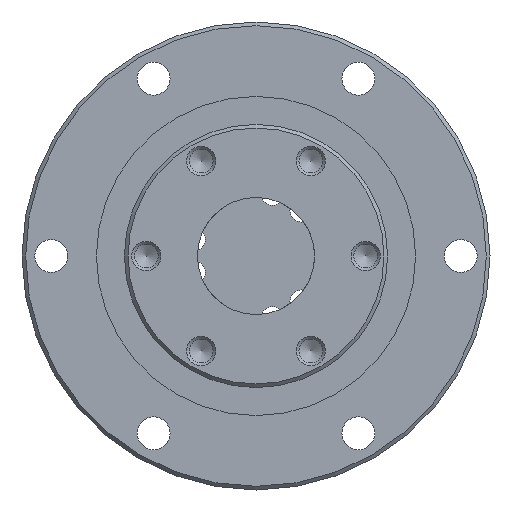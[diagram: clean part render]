
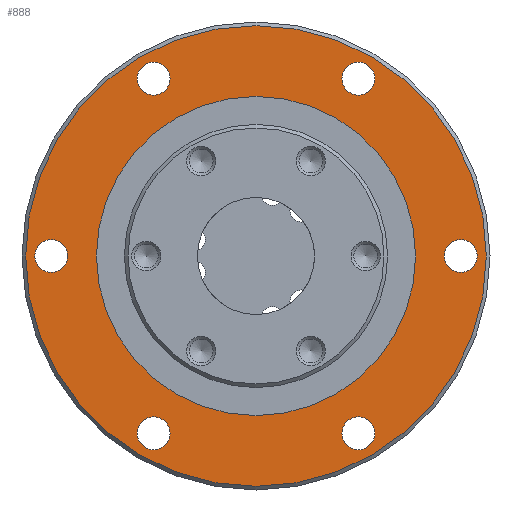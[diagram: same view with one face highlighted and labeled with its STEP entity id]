
A CAD part, left-side view. The second image highlights one B-rep face of the part: STEP entity #888.
In plain terms, the highlighted planar face has unit normal (-1, 0, 0).
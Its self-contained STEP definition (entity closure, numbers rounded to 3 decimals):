
#66=PLANE('',#1021);
#188=ORIENTED_EDGE('',*,*,#340,.F.);
#189=ORIENTED_EDGE('',*,*,#341,.F.);
#190=ORIENTED_EDGE('',*,*,#342,.F.);
#191=ORIENTED_EDGE('',*,*,#343,.F.);
#192=ORIENTED_EDGE('',*,*,#344,.F.);
#193=ORIENTED_EDGE('',*,*,#345,.F.);
#194=ORIENTED_EDGE('',*,*,#346,.F.);
#195=ORIENTED_EDGE('',*,*,#339,.T.);
#339=EDGE_CURVE('',#423,#423,#512,.T.);
#340=EDGE_CURVE('',#424,#424,#513,.T.);
#341=EDGE_CURVE('',#425,#425,#514,.F.);
#342=EDGE_CURVE('',#426,#426,#515,.F.);
#343=EDGE_CURVE('',#427,#427,#516,.F.);
#344=EDGE_CURVE('',#428,#428,#517,.F.);
#345=EDGE_CURVE('',#429,#429,#518,.F.);
#346=EDGE_CURVE('',#430,#430,#519,.F.);
#423=VERTEX_POINT('',#1563);
#424=VERTEX_POINT('',#1566);
#425=VERTEX_POINT('',#1568);
#426=VERTEX_POINT('',#1570);
#427=VERTEX_POINT('',#1572);
#428=VERTEX_POINT('',#1574);
#429=VERTEX_POINT('',#1576);
#430=VERTEX_POINT('',#1578);
#512=CIRCLE('',#1020,21.818);
#513=CIRCLE('',#1022,31.5);
#514=CIRCLE('',#1023,2.25);
#515=CIRCLE('',#1024,2.25);
#516=CIRCLE('',#1025,2.25);
#517=CIRCLE('',#1026,2.25);
#518=CIRCLE('',#1027,2.25);
#519=CIRCLE('',#1028,2.25);
#591=EDGE_LOOP('',(#188));
#592=EDGE_LOOP('',(#189));
#593=EDGE_LOOP('',(#190));
#594=EDGE_LOOP('',(#191));
#595=EDGE_LOOP('',(#192));
#596=EDGE_LOOP('',(#193));
#597=EDGE_LOOP('',(#194));
#598=EDGE_LOOP('',(#195));
#725=FACE_BOUND('',#591,.T.);
#726=FACE_BOUND('',#592,.T.);
#727=FACE_BOUND('',#593,.T.);
#728=FACE_BOUND('',#594,.T.);
#729=FACE_BOUND('',#595,.T.);
#730=FACE_BOUND('',#596,.T.);
#731=FACE_BOUND('',#597,.T.);
#732=FACE_BOUND('',#598,.T.);
#888=ADVANCED_FACE('',(#725,#726,#727,#728,#729,#730,#731,#732),#66,.F.);
#1020=AXIS2_PLACEMENT_3D('',#1562,#1246,#1247);
#1021=AXIS2_PLACEMENT_3D('',#1564,#1248,#1249);
#1022=AXIS2_PLACEMENT_3D('',#1565,#1250,#1251);
#1023=AXIS2_PLACEMENT_3D('',#1567,#1252,#1253);
#1024=AXIS2_PLACEMENT_3D('',#1569,#1254,#1255);
#1025=AXIS2_PLACEMENT_3D('',#1571,#1256,#1257);
#1026=AXIS2_PLACEMENT_3D('',#1573,#1258,#1259);
#1027=AXIS2_PLACEMENT_3D('',#1575,#1260,#1261);
#1028=AXIS2_PLACEMENT_3D('',#1577,#1262,#1263);
#1246=DIRECTION('',(1.,0.,0.));
#1247=DIRECTION('',(0.,0.,-1.));
#1248=DIRECTION('',(1.,0.,0.));
#1249=DIRECTION('',(0.,0.,-1.));
#1250=DIRECTION('',(1.,0.,0.));
#1251=DIRECTION('',(0.,0.,-1.));
#1252=DIRECTION('',(1.,0.,0.));
#1253=DIRECTION('',(0.,0.,-1.));
#1254=DIRECTION('',(1.,0.,0.));
#1255=DIRECTION('',(0.,0.,-1.));
#1256=DIRECTION('',(1.,0.,0.));
#1257=DIRECTION('',(0.,0.,-1.));
#1258=DIRECTION('',(1.,0.,0.));
#1259=DIRECTION('',(0.,0.,-1.));
#1260=DIRECTION('',(1.,0.,0.));
#1261=DIRECTION('',(0.,0.,-1.));
#1262=DIRECTION('',(1.,0.,0.));
#1263=DIRECTION('',(0.,0.,-1.));
#1562=CARTESIAN_POINT('',(10.,0.,0.));
#1563=CARTESIAN_POINT('',(10.,0.,-21.818));
#1564=CARTESIAN_POINT('',(10.,21.818,0.));
#1565=CARTESIAN_POINT('',(10.,0.,0.));
#1566=CARTESIAN_POINT('',(10.,0.,-31.5));
#1567=CARTESIAN_POINT('',(10.,28.,0.));
#1568=CARTESIAN_POINT('',(10.,28.,-2.25));
#1569=CARTESIAN_POINT('',(10.,14.,-24.249));
#1570=CARTESIAN_POINT('',(10.,14.,-26.499));
#1571=CARTESIAN_POINT('',(10.,-14.,-24.249));
#1572=CARTESIAN_POINT('',(10.,-14.,-26.499));
#1573=CARTESIAN_POINT('',(10.,-28.,0.));
#1574=CARTESIAN_POINT('',(10.,-28.,-2.25));
#1575=CARTESIAN_POINT('',(10.,-14.,24.249));
#1576=CARTESIAN_POINT('',(10.,-14.,21.999));
#1577=CARTESIAN_POINT('',(10.,14.,24.249));
#1578=CARTESIAN_POINT('',(10.,14.,21.999));
